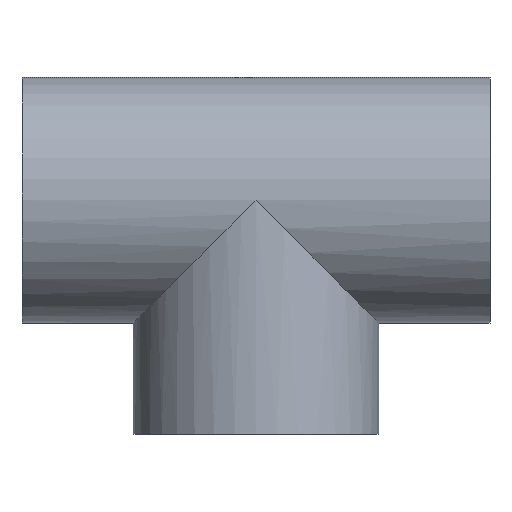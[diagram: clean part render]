
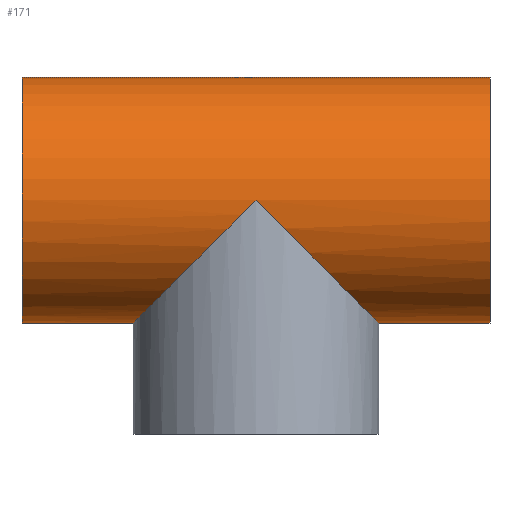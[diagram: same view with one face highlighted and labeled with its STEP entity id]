
A CAD part, top view. The second image highlights one B-rep face of the part: STEP entity #171.
In plain terms, the highlighted cylindrical face has radius 21 mm (diameter 42 mm), a full revolution.
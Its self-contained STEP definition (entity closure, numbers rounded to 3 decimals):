
#17=ELLIPSE('',#199,29.698,21.);
#18=ELLIPSE('',#200,29.698,21.);
#32=FACE_BOUND('',#68,.T.);
#33=FACE_BOUND('',#69,.T.);
#47=FACE_OUTER_BOUND('',#67,.T.);
#67=EDGE_LOOP('',(#140));
#68=EDGE_LOOP('',(#141,#142));
#69=EDGE_LOOP('',(#143));
#90=CIRCLE('',#198,21.);
#91=CIRCLE('',#201,21.);
#104=VERTEX_POINT('',#299);
#105=VERTEX_POINT('',#301);
#106=VERTEX_POINT('',#302);
#107=VERTEX_POINT('',#305);
#120=EDGE_CURVE('',#104,#104,#90,.T.);
#121=EDGE_CURVE('',#105,#106,#17,.T.);
#122=EDGE_CURVE('',#106,#105,#18,.T.);
#123=EDGE_CURVE('',#107,#107,#91,.T.);
#140=ORIENTED_EDGE('',*,*,#120,.F.);
#141=ORIENTED_EDGE('',*,*,#121,.T.);
#142=ORIENTED_EDGE('',*,*,#122,.T.);
#143=ORIENTED_EDGE('',*,*,#123,.F.);
#161=CYLINDRICAL_SURFACE('',#197,21.);
#171=ADVANCED_FACE('',(#47,#32,#33),#161,.T.);
#197=AXIS2_PLACEMENT_3D('',#298,#246,#247);
#198=AXIS2_PLACEMENT_3D('',#300,#248,#249);
#199=AXIS2_PLACEMENT_3D('',#303,#250,#251);
#200=AXIS2_PLACEMENT_3D('',#304,#252,#253);
#201=AXIS2_PLACEMENT_3D('',#306,#254,#255);
#246=DIRECTION('center_axis',(1.,0.,0.));
#247=DIRECTION('ref_axis',(0.,-1.,0.));
#248=DIRECTION('center_axis',(-1.,0.,0.));
#249=DIRECTION('ref_axis',(0.,-1.,0.));
#250=DIRECTION('center_axis',(-0.707,0.707,0.));
#251=DIRECTION('ref_axis',(-0.707,-0.707,0.));
#252=DIRECTION('center_axis',(0.707,0.707,0.));
#253=DIRECTION('ref_axis',(-0.707,0.707,0.));
#254=DIRECTION('center_axis',(1.,0.,0.));
#255=DIRECTION('ref_axis',(0.,-1.,0.));
#298=CARTESIAN_POINT('Origin',(0.,0.,0.));
#299=CARTESIAN_POINT('',(-40.,21.,0.));
#300=CARTESIAN_POINT('Origin',(-40.,0.,0.));
#301=CARTESIAN_POINT('',(0.,0.,-21.));
#302=CARTESIAN_POINT('',(0.,0.,21.));
#303=CARTESIAN_POINT('Origin',(0.,0.,0.));
#304=CARTESIAN_POINT('Origin',(0.,0.,0.));
#305=CARTESIAN_POINT('',(40.,21.,0.));
#306=CARTESIAN_POINT('Origin',(40.,0.,0.));
